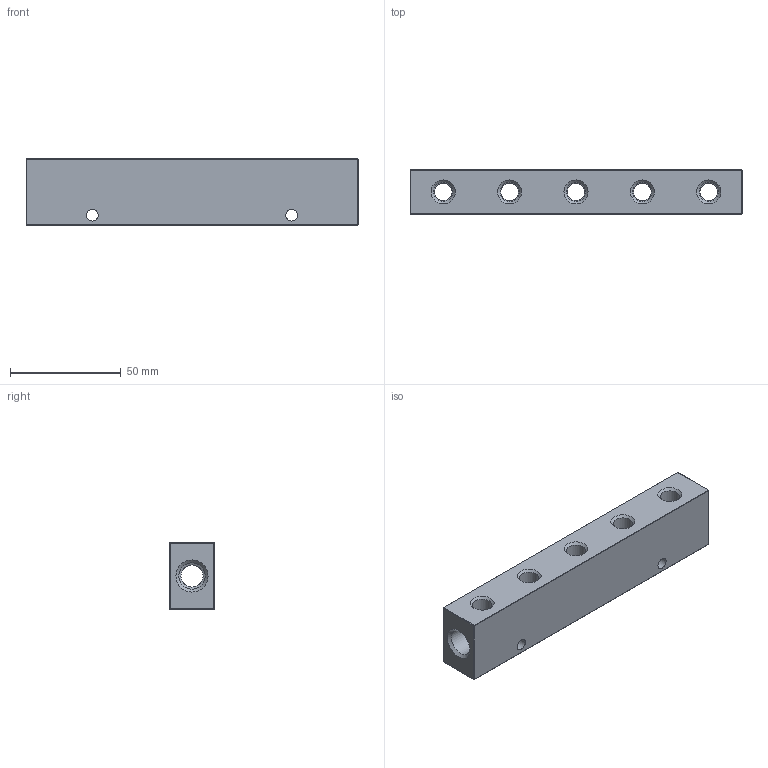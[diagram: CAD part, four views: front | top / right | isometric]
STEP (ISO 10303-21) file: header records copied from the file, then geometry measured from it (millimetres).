
FILE_DESCRIPTION(/* description */ (''),/* implementation_level */ '2;1');
FILE_NAME(/* name */ 'S:\_Tecnico\ArchivioUT\_Disegni3D ingombri\DISEGNI 3D per ingombri\RL\RL52141855.stp',/* time_stamp */ '2020-02-20T14:32:49+01:00',/* author */ ('UfficioTecnico'),/* organization */ (''),/* preprocessor_version */ 'ST-DEVELOPER v18',/* originating_system */ 'Autodesk Inventor 2020',/* authorisation */ '');
FILE_SCHEMA (('AUTOMOTIVE_DESIGN { 1 0 10303 214 3 1 1 }'));
Length unit declared in the file: millimetre
Products named in the file (1): RL51141805
Bounding box: 150 x 20 x 30 mm (x, y, z)
Volume: 70365.2 mm3; surface area: 22996.2 mm2
Topology: 1 solids, 1 shells, 75 faces, 193 edges, 120 vertices
Faces by surface type: cylinder 37, cone 24, sphere 8, plane 6
Full cylindrical faces by diameter (mm): 5.25 x2, 8 x10, 8.848 x10, 10 x1, 11.89 x2
Entity records: 2772 total; most frequent: CARTESIAN_POINT 809, DIRECTION 425, ORIENTED_EDGE 386, EDGE_CURVE 193, AXIS2_PLACEMENT_3D 176, VERTEX_POINT 120, EDGE_LOOP 101, CIRCLE 100
